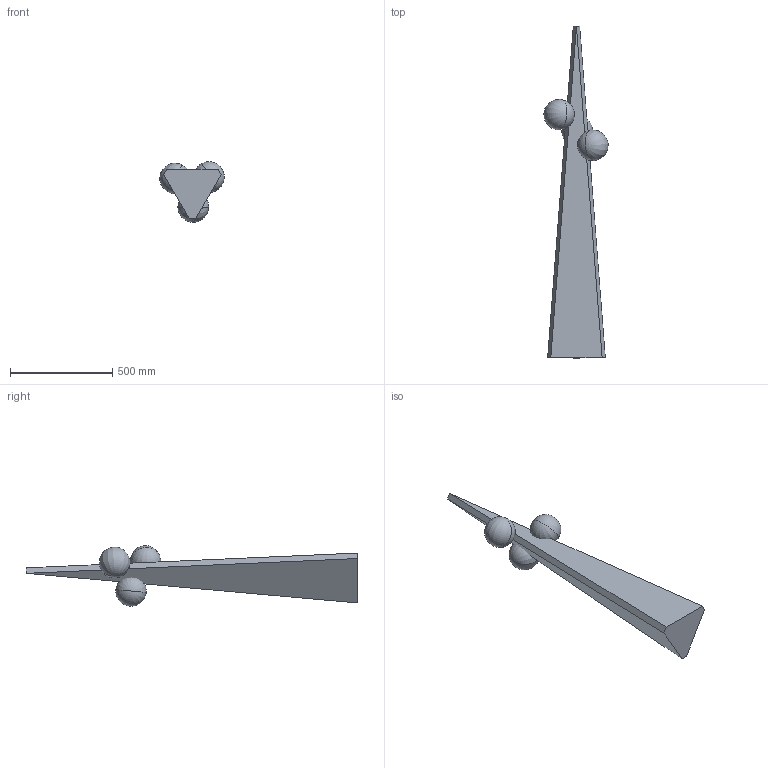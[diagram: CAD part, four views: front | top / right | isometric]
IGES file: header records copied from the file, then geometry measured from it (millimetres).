
Start section: SolidWorks IGES file using analytic representation for surfaces
Global section: file name: F:\燠隴矨\3D\2025-7\Noir Roy Floor Lamp.IGS,15; native system: HSolidWorks 2022; preprocessor: SolidWorks 2022; author: MyPC; date: 250725.194537; units: millimetre
Bounding box: 314.13 x 1620 x 295.45 mm (x, y, z)
Surface area: 1013195.4 mm2 (no closed solid volume)
Topology: 0 solids, 0 shells, 14 faces, 54 edges, 48 vertices
Faces by surface type: bspline 8, revolution 6
